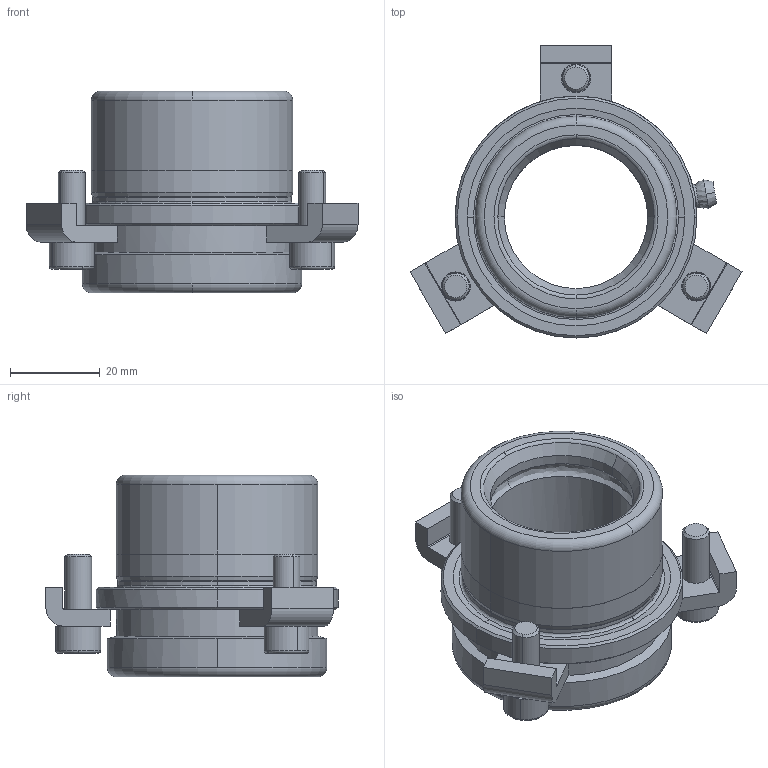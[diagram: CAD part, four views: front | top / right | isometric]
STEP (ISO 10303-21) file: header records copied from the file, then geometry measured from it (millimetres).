
FILE_DESCRIPTION((''),'2;1');
FILE_NAME('B10_032_020.stp','2008-11-06T08:46:31',(''),(''),'Mechanical Desktop 2009','Mechanical Desktop 2009',', , ');
FILE_SCHEMA(('CONFIG_CONTROL_DESIGN'));
Length unit declared in the file: millimetre
Products named in the file (2): Product; blmdl1
Assembly tree (1 placements, depth 2):
  Product
    blmdl1
Bounding box: 74.11 x 65.2 x 45 mm (x, y, z)
Volume: 45335.5 mm3; surface area: 19333.4 mm2
Topology: 8 solids, 8 shells, 170 faces, 454 edges, 301 vertices
Faces by surface type: plane 69, cylinder 49, cone 20, bspline 16, torus 16
Entity records: 6608 total; most frequent: CARTESIAN_POINT 2183, DIRECTION 944, ORIENTED_EDGE 900, EDGE_CURVE 450, AXIS2_PLACEMENT_3D 375, VERTEX_POINT 299, CIRCLE 219, VECTOR 194
